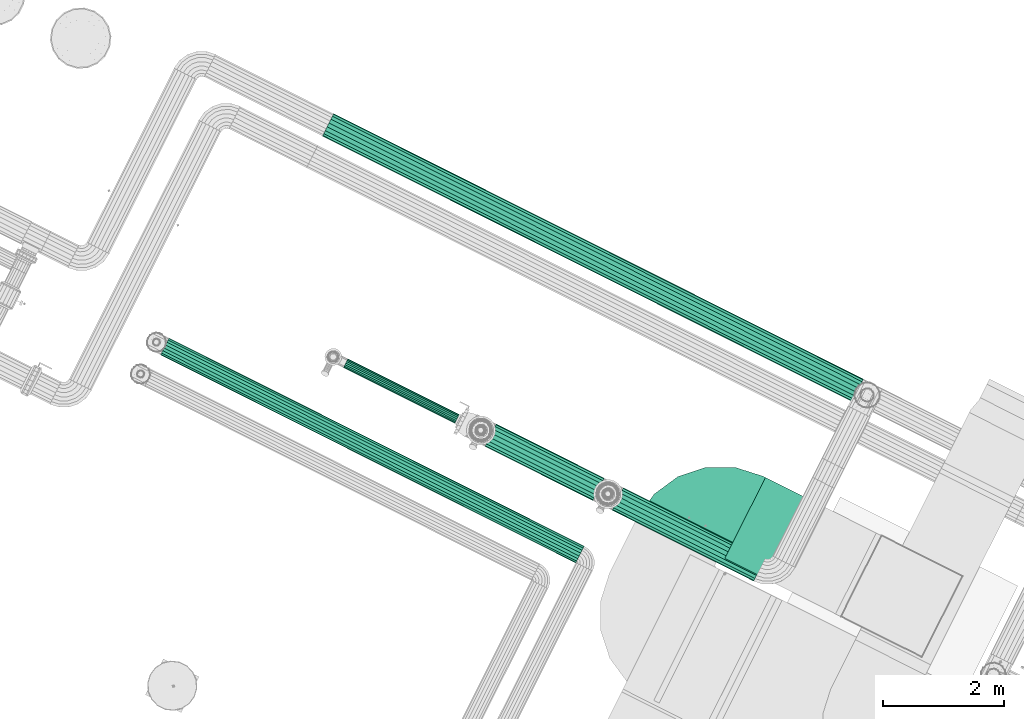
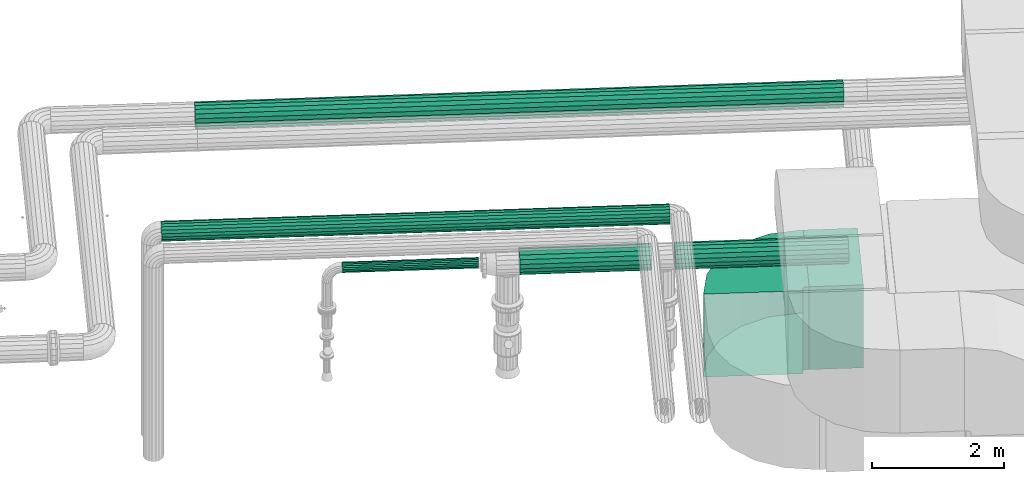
# One storey, part 8 of 152: 6 flow segments, 1 flow fitting.
"""IFC2X3 building model written with IfcOpenShell, lengths in metres."""

from ifc_helpers import new_model, si_unit, derived_unit, direction, frame, origin, place, context, subcontext, project, spatial, face_set, surface_model, source, transform, mapped, material, type_object, type_shapes, element, save


model = new_model("IFC2X3")

# Units and contexts
model_context = context("Model", 3, precision=5.2338327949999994e-05, world=origin(), true_north=direction((0.0, 1.0)))
body_context = subcontext(model_context, "Body", "Model", "MODEL_VIEW")
ifc_project = project(units=[si_unit("LENGTHUNIT", "METRE"), si_unit("AREAUNIT", "SQUARE_METRE"), si_unit("VOLUMEUNIT", "CUBIC_METRE"), si_unit("MASSUNIT", "GRAM", prefix="KILO"), si_unit("PLANEANGLEUNIT", "RADIAN"), derived_unit("THERMALTRANSMITTANCEUNIT", [(si_unit("MASSUNIT", "GRAM", prefix="KILO"), 1), (si_unit("THERMODYNAMICTEMPERATUREUNIT", "KELVIN"), -1), (si_unit("TIMEUNIT", "SECOND"), -3)])], contexts=[model_context])

# Site, building, storey
site_placement = place(None, frame((0.0, 0.0, 0.0), z_axis=(0.0, 0.0, 1.0), x_axis=(0.8939966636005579, -0.4480736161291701, 0.0)))
site = spatial("IfcSite", under=ifc_project, at=site_placement, Name="Default", CompositionType="ELEMENT")
building_placement = place(site_placement, origin())
building = spatial("IfcBuilding", under=site, at=building_placement, CompositionType="ELEMENT")
storey_placement = place(building_placement, frame((0.0, 0.0, 2.7499999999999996)))
storey = spatial("IfcBuildingStorey", under=building, at=storey_placement, Name="1. Obergeschoss", CompositionType="ELEMENT", Elevation=2.7499999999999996)

# Flow segments
ifc_material_1 = material(Name="IfcSurfaceStyle #1741")
distribution_element_type_1 = type_object("IfcDistributionElementType", Name="Stahlrohr nach DIN 2448 249765:Stahlrohr nach DIN 2448 249765", material=ifc_material_1)
shared_shape_1 = source(origin(), body_context, "Body", "SurfaceModel", [
    surface_model("IfcFaceBasedSurfaceModel", [(28.367924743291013, 11.740486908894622, 5.635640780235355), (28.367924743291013, 11.747093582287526, 5.673109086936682), (18.550000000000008, 11.747093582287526, 5.673109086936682), (18.550000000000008, 11.740486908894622, 5.635640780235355), (28.367924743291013, 11.76611674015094, 5.706058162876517), (18.550000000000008, 11.76611674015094, 5.706058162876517), (28.367924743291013, 11.795261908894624, 5.730513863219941), (18.550000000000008, 11.795261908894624, 5.730513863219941), (28.367924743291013, 11.83101375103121, 5.743526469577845), (18.550000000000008, 11.83101375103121, 5.743526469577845), (28.367924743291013, 11.869060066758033, 5.743526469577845), (18.550000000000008, 11.869060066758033, 5.743526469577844), (28.367924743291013, 11.904811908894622, 5.730513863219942), (18.550000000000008, 11.904811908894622, 5.730513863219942), (28.367924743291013, 11.93395707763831, 5.706058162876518), (18.550000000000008, 11.933957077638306, 5.706058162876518), (28.367924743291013, 11.952980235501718, 5.673109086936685), (18.550000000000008, 11.952980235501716, 5.673109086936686), (28.367924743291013, 11.959586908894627, 5.635640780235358), (18.550000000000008, 11.959586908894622, 5.6356407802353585), (28.367924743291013, 11.952980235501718, 5.5981724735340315), (18.550000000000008, 11.952980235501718, 5.59817247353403), (28.367924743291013, 11.93395707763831, 5.565223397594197), (18.550000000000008, 11.933957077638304, 5.565223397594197), (28.367924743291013, 11.904811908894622, 5.540767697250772), (18.550000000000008, 11.904811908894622, 5.540767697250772), (28.367924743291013, 11.869060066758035, 5.52775509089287), (18.550000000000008, 11.869060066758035, 5.52775509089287), (28.367924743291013, 11.831013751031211, 5.52775509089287), (18.550000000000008, 11.831013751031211, 5.52775509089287), (28.367924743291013, 11.795261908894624, 5.540767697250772), (18.550000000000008, 11.795261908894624, 5.540767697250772), (28.367924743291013, 11.76611674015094, 5.5652233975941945), (18.550000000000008, 11.76611674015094, 5.5652233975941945), (28.367924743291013, 11.747093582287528, 5.598172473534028), (18.550000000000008, 11.747093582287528, 5.598172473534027), (28.367924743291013, 11.640486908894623, 5.635640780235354), (28.367924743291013, 11.653124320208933, 5.707311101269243), (18.550000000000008, 11.653124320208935, 5.707311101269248), (18.550000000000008, 11.640486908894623, 5.635640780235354), (28.367924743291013, 11.68951229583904, 5.770336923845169), (18.550000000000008, 11.68951229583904, 5.770336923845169), (28.367924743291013, 11.745261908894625, 5.8171164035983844), (18.550000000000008, 11.745261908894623, 5.8171164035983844), (28.367924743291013, 11.813648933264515, 5.842007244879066), (18.550000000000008, 11.813648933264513, 5.842007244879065), (28.367924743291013, 11.886424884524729, 5.842007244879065), (18.550000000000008, 11.886424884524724, 5.842007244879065), (28.367924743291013, 11.954811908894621, 5.817116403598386), (18.550000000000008, 11.95481190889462, 5.817116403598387), (28.367924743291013, 12.010561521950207, 5.770336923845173), (18.550000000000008, 12.010561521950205, 5.770336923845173), (28.367924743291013, 12.04694949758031, 5.707311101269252), (18.550000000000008, 12.046949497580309, 5.707311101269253), (28.367924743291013, 12.059586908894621, 5.635640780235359), (18.550000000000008, 12.059586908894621, 5.635640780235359), (28.367924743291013, 12.04694949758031, 5.563970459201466), (18.550000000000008, 12.04694949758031, 5.563970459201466), (28.367924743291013, 12.010561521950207, 5.500944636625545), (18.550000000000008, 12.010561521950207, 5.500944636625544), (28.367924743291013, 11.954811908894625, 5.454165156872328), (18.550000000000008, 11.954811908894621, 5.45416515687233), (28.367924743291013, 11.88642488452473, 5.429274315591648), (18.550000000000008, 11.886424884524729, 5.42927431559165), (28.367924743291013, 11.813648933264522, 5.429274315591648), (18.550000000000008, 11.81364893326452, 5.42927431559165), (28.367924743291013, 11.745261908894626, 5.454165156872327), (18.550000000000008, 11.745261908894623, 5.4541651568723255), (28.367924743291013, 11.689512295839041, 5.5009446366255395), (18.550000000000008, 11.68951229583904, 5.50094463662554), (28.367924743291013, 11.653124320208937, 5.563970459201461), (18.550000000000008, 11.653124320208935, 5.563970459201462)], [face_set([[[0, 1, 2, 3]], [[1, 4, 5, 2]], [[4, 6, 7, 5]], [[6, 8, 9, 7]], [[8, 10, 11, 9]], [[10, 12, 13, 11]], [[12, 14, 15, 13]], [[14, 16, 17, 15]], [[16, 18, 19, 17]], [[18, 20, 21, 19]], [[20, 22, 23, 21]], [[22, 24, 25, 23]], [[24, 26, 27, 25]], [[26, 28, 29, 27]], [[28, 30, 31, 29]], [[30, 32, 33, 31]], [[32, 34, 35, 33]], [[34, 0, 3, 35]], [[36, 37, 38, 39]], [[37, 40, 41, 38]], [[40, 42, 43, 41]], [[42, 44, 45, 43]], [[44, 46, 47, 45]], [[46, 48, 49, 47]], [[48, 50, 51, 49]], [[50, 52, 53, 51]], [[52, 54, 55, 53]], [[54, 56, 57, 55]], [[56, 58, 59, 57]], [[58, 60, 61, 59]], [[60, 62, 63, 61]], [[62, 64, 65, 63]], [[64, 66, 67, 65]], [[66, 68, 69, 67]], [[68, 70, 71, 69]], [[70, 36, 39, 71]]])]),
])
type_shapes(distribution_element_type_1, [shared_shape_1])
flow_segment_1_placement = place(storey_placement, frame((0.0, 0.0, -2.7499999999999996)))
element("IfcFlowSegment", 1, at=flow_segment_1_placement, inside=storey, type_object=distribution_element_type_1, material=ifc_material_1, Name="Stahlrohr nach DIN 2448", ObjectType="Stahlrohr nach DIN 2448", context=body_context, shape_type="MappedRepresentation", body=[
    mapped(shared_shape_1, transform((0.0, 0.0, 0.0), scale=1.0)),
])
distribution_element_type_2 = type_object("IfcDistributionElementType", Name="Stahlrohr nach DIN 2448 251681:Stahlrohr nach DIN 2448 251681", material=ifc_material_1)
shared_shape_2 = source(origin(), body_context, "Body", "SurfaceModel", [
    surface_model("IfcFaceBasedSurfaceModel", [(17.778232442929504, 7.2987690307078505, 6.670400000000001), (17.778232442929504, 7.3022155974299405, 6.6508535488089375), (25.4723, 7.3022155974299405, 6.6508535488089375), (25.4723, 7.2987690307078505, 6.670399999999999), (17.778232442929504, 7.3121395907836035, 6.633664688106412), (25.4723, 7.312139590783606, 6.633664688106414), (17.778232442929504, 7.32734403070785, 6.620906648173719), (25.4723, 7.327344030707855, 6.620906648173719), (17.778232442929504, 7.345995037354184, 6.614118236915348), (25.4723, 7.345995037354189, 6.614118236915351), (17.778232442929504, 7.365843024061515, 6.614118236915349), (25.4723, 7.36584302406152, 6.614118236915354), (17.778232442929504, 7.384494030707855, 6.620906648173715), (25.4723, 7.384494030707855, 6.62090664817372), (17.778232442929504, 7.399698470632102, 6.63366468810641), (25.4723, 7.399698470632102, 6.633664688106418), (17.778232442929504, 7.4096224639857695, 6.650853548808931), (25.4723, 7.4096224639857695, 6.65085354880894), (17.778232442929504, 7.4130690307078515, 6.670399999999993), (25.4723, 7.413069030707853, 6.6704000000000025), (17.778232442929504, 7.409622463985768, 6.689946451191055), (25.4723, 7.409622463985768, 6.689946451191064), (17.778232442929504, 7.3996984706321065, 6.707135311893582), (25.4723, 7.399698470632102, 6.707135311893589), (17.778232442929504, 7.3844940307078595, 6.719893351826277), (25.4723, 7.3844940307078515, 6.719893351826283), (17.778232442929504, 7.365843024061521, 6.726681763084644), (25.4723, 7.365843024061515, 6.726681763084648), (17.778232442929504, 7.345995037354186, 6.726681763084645), (25.4723, 7.345995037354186, 6.726681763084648), (17.778232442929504, 7.327344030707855, 6.719893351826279), (25.4723, 7.327344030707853, 6.719893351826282), (17.778232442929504, 7.312139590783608, 6.707135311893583), (25.4723, 7.3121395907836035, 6.707135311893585), (17.778232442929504, 7.302215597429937, 6.689946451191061), (25.4723, 7.302215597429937, 6.689946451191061), (17.778232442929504, 7.198769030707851, 6.670400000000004), (17.778232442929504, 7.208246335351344, 6.616651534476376), (25.4723, 7.2082463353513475, 6.616651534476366), (25.4723, 7.1987690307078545, 6.670399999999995), (17.778232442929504, 7.2355351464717, 6.569385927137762), (25.4723, 7.235535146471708, 6.5693859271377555), (17.778232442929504, 7.277344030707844, 6.534304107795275), (25.4723, 7.277344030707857, 6.534304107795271), (17.778232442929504, 7.328630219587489, 6.515637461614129), (25.4723, 7.328630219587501, 6.51563746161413), (17.778232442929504, 7.383207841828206, 6.5156374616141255), (25.4723, 7.3832078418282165, 6.515637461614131), (17.778232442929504, 7.434494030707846, 6.534304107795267), (25.4723, 7.434494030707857, 6.534304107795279), (17.778232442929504, 7.476302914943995, 6.569385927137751), (25.4723, 7.476302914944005, 6.569385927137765), (17.778232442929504, 7.503591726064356, 6.616651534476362), (25.4723, 7.5035917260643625, 6.616651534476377), (17.778232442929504, 7.513069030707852, 6.67039999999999), (25.4723, 7.513069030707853, 6.670400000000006), (17.778232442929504, 7.5035917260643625, 6.724148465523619), (25.4723, 7.503591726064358, 6.724148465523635), (17.778232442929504, 7.476302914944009, 6.771414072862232), (25.4723, 7.476302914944, 6.771414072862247), (17.778232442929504, 7.434494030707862, 6.806495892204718), (25.4723, 7.4344940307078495, 6.80649589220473), (17.778232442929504, 7.383207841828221, 6.825162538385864), (25.4723, 7.383207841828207, 6.825162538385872), (17.778232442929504, 7.328630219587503, 6.82516253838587), (25.4723, 7.328630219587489, 6.825162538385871), (17.778232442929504, 7.277344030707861, 6.806495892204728), (25.4723, 7.277344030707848, 6.8064958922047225), (17.778232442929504, 7.235535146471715, 6.7714140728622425), (25.4723, 7.235535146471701, 6.771414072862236), (17.778232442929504, 7.208246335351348, 6.724148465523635), (25.4723, 7.208246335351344, 6.724148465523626)], [face_set([[[0, 1, 2, 3]], [[1, 4, 5, 2]], [[4, 6, 7, 5]], [[6, 8, 9, 7]], [[8, 10, 11, 9]], [[10, 12, 13, 11]], [[12, 14, 15, 13]], [[14, 16, 17, 15]], [[16, 18, 19, 17]], [[18, 20, 21, 19]], [[20, 22, 23, 21]], [[22, 24, 25, 23]], [[24, 26, 27, 25]], [[26, 28, 29, 27]], [[28, 30, 31, 29]], [[30, 32, 33, 31]], [[32, 34, 35, 33]], [[34, 0, 3, 35]], [[36, 37, 38, 39]], [[37, 40, 41, 38]], [[40, 42, 43, 41]], [[42, 44, 45, 43]], [[44, 46, 47, 45]], [[46, 48, 49, 47]], [[48, 50, 51, 49]], [[50, 52, 53, 51]], [[52, 54, 55, 53]], [[54, 56, 57, 55]], [[56, 58, 59, 57]], [[58, 60, 61, 59]], [[60, 62, 63, 61]], [[62, 64, 65, 63]], [[64, 66, 67, 65]], [[66, 68, 69, 67]], [[68, 70, 71, 69]], [[70, 36, 39, 71]]])]),
])
type_shapes(distribution_element_type_2, [shared_shape_2])
flow_segment_2_placement = place(storey_placement, frame((0.0, 0.0, -2.7499999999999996)))
element("IfcFlowSegment", 2, at=flow_segment_2_placement, inside=storey, type_object=distribution_element_type_2, material=ifc_material_1, Name="Stahlrohr nach DIN 2448", ObjectType="Stahlrohr nach DIN 2448", context=body_context, shape_type="MappedRepresentation", body=[
    mapped(shared_shape_2, transform((0.0, 0.0, 0.0), scale=1.0)),
])

# Flow fitting
ifc_material_2 = material(Name="IfcSurfaceStyle #271571")
distribution_element_type_3 = type_object("IfcDistributionElementType", Name="Bogen symmetrisch:Bogen symmetrisch", material=ifc_material_2)
shared_shape_3 = source(origin(), body_context, "Body", "SurfaceModel", [
    surface_model("IfcFaceBasedSurfaceModel", [(27.596999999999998, 9.873869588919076, 2.997), (27.118023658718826, 9.79800718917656, 2.997), (27.118023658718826, 9.79800718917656, 4.526999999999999), (27.596999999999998, 9.873869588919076, 4.526999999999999), (26.68593285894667, 9.577845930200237, 2.997), (26.68593285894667, 9.577845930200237, 4.526999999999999), (26.343023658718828, 9.234936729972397, 2.997), (26.343023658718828, 9.234936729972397, 4.526999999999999), (26.122862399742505, 8.802845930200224, 2.997), (26.122862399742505, 8.802845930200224, 4.526999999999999), (26.047, 8.323869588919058, 2.997), (26.047, 8.323869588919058, 4.526999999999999), (27.647, 9.873869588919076, 4.526999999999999), (27.647, 9.873869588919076, 2.997), (27.647, 8.373869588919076, 4.526999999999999), (27.596999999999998, 8.373869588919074, 4.526999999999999), (27.596999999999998, 8.373869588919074, 2.997), (27.647, 8.373869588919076, 2.997), (27.546999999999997, 8.323869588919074, 2.997), (27.549447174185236, 8.339320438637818, 2.997), (27.549447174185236, 8.339320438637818, 4.526999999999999), (27.546999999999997, 8.323869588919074, 4.526999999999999), (27.55654915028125, 8.3532588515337, 2.997), (27.55654915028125, 8.3532588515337, 4.526999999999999), (27.567610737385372, 8.364320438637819, 2.997), (27.567610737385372, 8.364320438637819, 4.526999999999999), (27.581549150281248, 8.371422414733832, 2.997), (27.581549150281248, 8.371422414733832, 4.526999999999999), (27.546999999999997, 8.273869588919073, 4.526999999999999), (27.546999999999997, 8.273869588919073, 2.997), (26.047000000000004, 8.273869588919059, 4.526999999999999), (26.047000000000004, 8.273869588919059, 2.997)], [face_set([[[0, 1, 2, 3]], [[1, 4, 5, 2]], [[4, 6, 7, 5]], [[6, 8, 9, 7]], [[8, 10, 11, 9]], [[3, 12, 13, 0]], [[14, 15, 16, 17]], [[18, 19, 20, 21]], [[19, 22, 23, 20]], [[22, 24, 25, 23]], [[24, 26, 27, 25]], [[26, 16, 15, 27]], [[21, 28, 29, 18]], [[30, 11, 10, 31]], [[1, 0, 26]], [[1, 26, 24]], [[1, 24, 22]], [[1, 22, 19]], [[1, 19, 18]], [[1, 18, 31]], [[1, 31, 4]], [[16, 26, 0]], [[16, 0, 13]], [[16, 13, 17]], [[31, 10, 8]], [[31, 8, 6]], [[31, 6, 4]], [[31, 18, 29]], [[27, 3, 2]], [[25, 27, 2]], [[23, 25, 2]], [[20, 23, 2]], [[21, 20, 2]], [[30, 21, 2]], [[5, 30, 2]], [[3, 27, 15]], [[12, 3, 15]], [[14, 12, 15]], [[9, 11, 30]], [[7, 9, 30]], [[5, 7, 30]], [[28, 21, 30]]])]),
])
type_shapes(distribution_element_type_3, [shared_shape_3])
flow_fitting_placement = place(storey_placement, frame((0.0, 0.0, -2.7499999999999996)))
element("IfcFlowFitting", 3, at=flow_fitting_placement, inside=storey, type_object=distribution_element_type_3, material=ifc_material_2, Name="Bogen symmetrisch", ObjectType="Bogen symmetrisch", context=body_context, shape_type="MappedRepresentation", body=[
    mapped(shared_shape_3, transform((0.0, 0.0, 0.0), scale=1.0)),
])

# Flow segments
distribution_element_type_4 = type_object("IfcDistributionElementType", Name="Luftleitungsteil 274337:Luftleitungsteil 274337", material=ifc_material_2)
shared_shape_4 = source(origin(), body_context, "Body", "SurfaceModel", [
    surface_model("IfcFaceBasedSurfaceModel", [(28.468211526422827, 9.87386958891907, 4.526999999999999), (27.646999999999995, 9.87386958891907, 4.526999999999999), (27.646999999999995, 8.373869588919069, 4.526999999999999), (28.468211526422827, 8.373869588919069, 4.526999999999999), (27.646999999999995, 8.373869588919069, 2.9969999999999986), (28.468211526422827, 8.373869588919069, 2.997), (27.646999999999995, 9.87386958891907, 2.997), (28.468211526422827, 9.87386958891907, 2.9970000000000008)], [face_set([[[0, 1, 2, 3]], [[3, 2, 4, 5]], [[5, 4, 6, 7]], [[7, 6, 1, 0]]])]),
])
type_shapes(distribution_element_type_4, [shared_shape_4])
flow_segment_3_placement = place(storey_placement, frame((0.0, 0.0, -2.7499999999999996)))
element("IfcFlowSegment", 4, at=flow_segment_3_placement, inside=storey, type_object=distribution_element_type_4, material=ifc_material_2, Name="Luftleitungsteil", ObjectType="Luftleitungsteil", context=body_context, shape_type="MappedRepresentation", body=[
    mapped(shared_shape_4, transform((0.0, 0.0, 0.0), scale=1.0)),
])
distribution_element_type_5 = type_object("IfcDistributionElementType", Name="Stahlrohr nach DIN 2448 614697:Stahlrohr nach DIN 2448 614697", material=ifc_material_1)
shared_shape_5 = source(origin(), body_context, "Body", "SurfaceModel", [
    surface_model("IfcFaceBasedSurfaceModel", [(23.262853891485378, 8.350165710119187, 5.1229972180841), (23.262853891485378, 8.356772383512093, 5.085528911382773), (25.261855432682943, 8.356772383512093, 5.085528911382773), (25.261855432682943, 8.350165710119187, 5.1229972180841), (23.262853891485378, 8.375795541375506, 5.052579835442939), (25.261855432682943, 8.375795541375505, 5.052579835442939), (23.262853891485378, 8.40494071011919, 5.028124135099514), (25.261855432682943, 8.404940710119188, 5.028124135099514), (23.262853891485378, 8.440692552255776, 5.015111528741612), (25.261855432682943, 8.440692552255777, 5.0151115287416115), (23.262853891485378, 8.4787388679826, 5.015111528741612), (25.261855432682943, 8.478738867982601, 5.015111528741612), (23.262853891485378, 8.51449071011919, 5.0281241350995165), (25.261855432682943, 8.514490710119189, 5.028124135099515), (23.262853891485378, 8.543635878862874, 5.05257983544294), (25.261855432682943, 8.543635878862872, 5.0525798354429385), (23.262853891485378, 8.562659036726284, 5.085528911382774), (25.261855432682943, 8.562659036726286, 5.085528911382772), (23.262853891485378, 8.56926571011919, 5.122997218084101), (25.261855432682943, 8.56926571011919, 5.1229972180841), (23.262853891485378, 8.562659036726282, 5.160465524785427), (25.261855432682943, 8.562659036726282, 5.160465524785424), (23.262853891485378, 8.543635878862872, 5.19341460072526), (25.261855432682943, 8.543635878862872, 5.19341460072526), (23.262853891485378, 8.51449071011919, 5.217870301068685), (25.261855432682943, 8.51449071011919, 5.217870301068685), (23.262853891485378, 8.4787388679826, 5.2308829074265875), (25.261855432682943, 8.478738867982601, 5.230882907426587), (23.262853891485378, 8.440692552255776, 5.230882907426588), (25.261855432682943, 8.440692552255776, 5.230882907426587), (23.262853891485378, 8.404940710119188, 5.217870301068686), (25.261855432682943, 8.404940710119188, 5.217870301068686), (23.262853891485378, 8.375795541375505, 5.19341460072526), (25.261855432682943, 8.375795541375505, 5.19341460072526), (23.262853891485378, 8.356772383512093, 5.160465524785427), (25.261855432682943, 8.356772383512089, 5.160465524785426), (23.262853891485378, 8.250165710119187, 5.1229972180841), (23.262853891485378, 8.262803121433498, 5.051326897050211), (25.261855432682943, 8.262803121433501, 5.051326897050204), (25.261855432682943, 8.25016571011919, 5.1229972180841), (23.262853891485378, 8.299191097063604, 4.988301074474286), (25.261855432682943, 8.299191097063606, 4.988301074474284), (23.262853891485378, 8.35494071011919, 4.941521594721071), (25.261855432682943, 8.35494071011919, 4.941521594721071), (23.262853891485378, 8.423327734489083, 4.91663075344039), (25.261855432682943, 8.423327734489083, 4.91663075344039), (23.262853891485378, 8.496103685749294, 4.916630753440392), (25.261855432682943, 8.496103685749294, 4.9166307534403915), (23.262853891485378, 8.56449071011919, 4.9415215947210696), (25.261855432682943, 8.56449071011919, 4.9415215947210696), (23.262853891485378, 8.620240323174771, 4.988301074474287), (25.261855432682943, 8.620240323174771, 4.988301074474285), (23.262853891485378, 8.656628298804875, 5.051326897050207), (25.261855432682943, 8.656628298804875, 5.051326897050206), (23.262853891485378, 8.669265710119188, 5.122997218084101), (25.261855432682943, 8.669265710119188, 5.1229972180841), (23.262853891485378, 8.656628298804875, 5.194667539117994), (25.261855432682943, 8.656628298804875, 5.194667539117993), (23.262853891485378, 8.620240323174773, 5.2576933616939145), (25.261855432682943, 8.620240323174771, 5.257693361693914), (23.262853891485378, 8.564490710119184, 5.3044728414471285), (25.261855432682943, 8.564490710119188, 5.304472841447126), (23.262853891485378, 8.496103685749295, 5.329363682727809), (25.261855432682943, 8.496103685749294, 5.3293636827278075), (23.262853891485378, 8.423327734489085, 5.329363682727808), (25.261855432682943, 8.423327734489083, 5.3293636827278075), (23.262853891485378, 8.35494071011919, 5.30447284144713), (25.261855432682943, 8.354940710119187, 5.3044728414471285), (23.262853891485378, 8.299191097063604, 5.257693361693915), (25.261855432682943, 8.299191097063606, 5.257693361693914), (23.262853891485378, 8.262803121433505, 5.194667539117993), (25.261855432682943, 8.262803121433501, 5.194667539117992)], [face_set([[[0, 1, 2, 3]], [[1, 4, 5, 2]], [[4, 6, 7, 5]], [[6, 8, 9, 7]], [[8, 10, 11, 9]], [[10, 12, 13, 11]], [[12, 14, 15, 13]], [[14, 16, 17, 15]], [[16, 18, 19, 17]], [[18, 20, 21, 19]], [[20, 22, 23, 21]], [[22, 24, 25, 23]], [[24, 26, 27, 25]], [[26, 28, 29, 27]], [[28, 30, 31, 29]], [[30, 32, 33, 31]], [[32, 34, 35, 33]], [[34, 0, 3, 35]], [[36, 37, 38, 39]], [[37, 40, 41, 38]], [[40, 42, 43, 41]], [[42, 44, 45, 43]], [[44, 46, 47, 45]], [[46, 48, 49, 47]], [[48, 50, 51, 49]], [[50, 52, 53, 51]], [[52, 54, 55, 53]], [[54, 56, 57, 55]], [[56, 58, 59, 57]], [[58, 60, 61, 59]], [[60, 62, 63, 61]], [[62, 64, 65, 63]], [[64, 66, 67, 65]], [[66, 68, 69, 67]], [[68, 70, 71, 69]], [[70, 36, 39, 71]]])]),
])
type_shapes(distribution_element_type_5, [shared_shape_5])
flow_segment_4_placement = place(storey_placement, frame((0.0, 0.0, -2.7499999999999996)))
element("IfcFlowSegment", 5, at=flow_segment_4_placement, inside=storey, type_object=distribution_element_type_5, material=ifc_material_1, Name="Stahlrohr nach DIN 2448", ObjectType="Stahlrohr nach DIN 2448", context=body_context, shape_type="MappedRepresentation", body=[
    mapped(shared_shape_5, transform((0.0, 0.0, 0.0), scale=1.0)),
])
distribution_element_type_6 = type_object("IfcDistributionElementType", Name="Stahlrohr nach DIN 2448 614743:Stahlrohr nach DIN 2448 614743", material=ifc_material_1)
shared_shape_6 = source(origin(), body_context, "Body", "SurfaceModel", [
    surface_model("IfcFaceBasedSurfaceModel", [(25.617855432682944, 8.569265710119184, 5.122997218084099), (25.617855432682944, 8.562659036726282, 5.160465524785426), (28.24092474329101, 8.562659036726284, 5.160465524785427), (28.24092474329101, 8.569265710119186, 5.1229972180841), (25.617855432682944, 8.54363587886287, 5.193414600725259), (28.24092474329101, 8.543635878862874, 5.19341460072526), (25.617855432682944, 8.51449071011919, 5.217870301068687), (28.24092474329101, 8.51449071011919, 5.217870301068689), (25.617855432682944, 8.478738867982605, 5.230882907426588), (28.24092474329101, 8.478738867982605, 5.230882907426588), (25.617855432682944, 8.440692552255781, 5.230882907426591), (28.24092474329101, 8.440692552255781, 5.230882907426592), (25.617855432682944, 8.40494071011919, 5.217870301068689), (28.24092474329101, 8.404940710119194, 5.217870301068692), (25.617855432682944, 8.375795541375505, 5.193414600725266), (28.24092474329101, 8.375795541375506, 5.193414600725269), (25.617855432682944, 8.356772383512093, 5.160465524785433), (28.24092474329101, 8.356772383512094, 5.160465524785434), (25.617855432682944, 8.350165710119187, 5.122997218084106), (28.24092474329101, 8.350165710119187, 5.122997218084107), (25.617855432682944, 8.35677238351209, 5.085528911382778), (28.24092474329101, 8.35677238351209, 5.085528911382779), (25.617855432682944, 8.375795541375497, 5.052579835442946), (28.24092474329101, 8.3757955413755, 5.0525798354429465), (25.617855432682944, 8.404940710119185, 5.028124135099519), (28.24092474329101, 8.404940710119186, 5.028124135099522), (25.617855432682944, 8.440692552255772, 5.015111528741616), (28.24092474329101, 8.440692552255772, 5.015111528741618), (25.617855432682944, 8.478738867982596, 5.015111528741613), (28.24092474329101, 8.478738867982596, 5.015111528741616), (25.617855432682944, 8.514490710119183, 5.028124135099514), (28.24092474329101, 8.514490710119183, 5.028124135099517), (25.617855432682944, 8.543635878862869, 5.052579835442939), (28.24092474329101, 8.543635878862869, 5.052579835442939), (25.617855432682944, 8.56265903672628, 5.085528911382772), (28.24092474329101, 8.56265903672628, 5.085528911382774), (25.617855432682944, 8.669265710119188, 5.1229972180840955), (25.617855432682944, 8.656628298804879, 5.194667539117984), (28.24092474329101, 8.656628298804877, 5.194667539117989), (28.24092474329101, 8.669265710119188, 5.122997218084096), (25.617855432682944, 8.620240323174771, 5.25769336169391), (28.24092474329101, 8.620240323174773, 5.257693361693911), (25.617855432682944, 8.56449071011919, 5.3044728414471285), (28.24092474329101, 8.564490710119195, 5.3044728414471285), (25.617855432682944, 8.4961036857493, 5.329363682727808), (28.24092474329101, 8.4961036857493, 5.329363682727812), (25.617855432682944, 8.423327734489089, 5.329363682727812), (28.24092474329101, 8.42332773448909, 5.329363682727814), (25.617855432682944, 8.354940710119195, 5.304472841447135), (28.24092474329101, 8.354940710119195, 5.3044728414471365), (25.617855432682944, 8.29919109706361, 5.2576933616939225), (28.24092474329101, 8.299191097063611, 5.257693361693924), (25.617855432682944, 8.262803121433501, 5.194667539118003), (28.24092474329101, 8.262803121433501, 5.194667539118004), (25.617855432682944, 8.25016571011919, 5.122997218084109), (28.24092474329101, 8.250165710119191, 5.1229972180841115), (25.617855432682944, 8.262803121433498, 5.051326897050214), (28.24092474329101, 8.262803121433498, 5.051326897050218), (25.617855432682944, 8.299191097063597, 4.988301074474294), (28.24092474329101, 8.299191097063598, 4.988301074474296), (25.617855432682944, 8.354940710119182, 4.941521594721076), (28.24092474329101, 8.354940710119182, 4.94152159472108), (25.617855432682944, 8.423327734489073, 4.916630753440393), (28.24092474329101, 8.423327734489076, 4.916630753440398), (25.617855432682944, 8.496103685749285, 4.916630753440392), (28.24092474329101, 8.496103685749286, 4.916630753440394), (25.617855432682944, 8.56449071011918, 4.941521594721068), (28.24092474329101, 8.56449071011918, 4.94152159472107), (25.617855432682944, 8.620240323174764, 4.988301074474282), (28.24092474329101, 8.620240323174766, 4.988301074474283), (25.617855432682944, 8.65662829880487, 5.051326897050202), (28.24092474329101, 8.656628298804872, 5.051326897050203)], [face_set([[[0, 1, 2, 3]], [[1, 4, 5, 2]], [[4, 6, 7, 5]], [[6, 8, 9, 7]], [[8, 10, 11, 9]], [[10, 12, 13, 11]], [[12, 14, 15, 13]], [[14, 16, 17, 15]], [[16, 18, 19, 17]], [[18, 20, 21, 19]], [[20, 22, 23, 21]], [[22, 24, 25, 23]], [[24, 26, 27, 25]], [[26, 28, 29, 27]], [[28, 30, 31, 29]], [[30, 32, 33, 31]], [[32, 34, 35, 33]], [[34, 0, 3, 35]], [[36, 37, 38, 39]], [[37, 40, 41, 38]], [[40, 42, 43, 41]], [[42, 44, 45, 43]], [[44, 46, 47, 45]], [[46, 48, 49, 47]], [[48, 50, 51, 49]], [[50, 52, 53, 51]], [[52, 54, 55, 53]], [[54, 56, 57, 55]], [[56, 58, 59, 57]], [[58, 60, 61, 59]], [[60, 62, 63, 61]], [[62, 64, 65, 63]], [[64, 66, 67, 65]], [[66, 68, 69, 67]], [[68, 70, 71, 69]], [[70, 36, 39, 71]]])]),
])
type_shapes(distribution_element_type_6, [shared_shape_6])
flow_segment_5_placement = place(storey_placement, frame((0.0, 0.0, -2.7499999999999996)))
element("IfcFlowSegment", 6, at=flow_segment_5_placement, inside=storey, type_object=distribution_element_type_6, material=ifc_material_1, Name="Stahlrohr nach DIN 2448", ObjectType="Stahlrohr nach DIN 2448", context=body_context, shape_type="MappedRepresentation", body=[
    mapped(shared_shape_6, transform((0.0, 0.0, 0.0), scale=1.0)),
])
distribution_element_type_7 = type_object("IfcDistributionElementType", Name="Stahlrohr nach DIN 2448 623365:Stahlrohr nach DIN 2448 623365", material=ifc_material_1)
shared_shape_7 = source(origin(), body_context, "Body", "SurfaceModel", [
    surface_model("IfcFaceBasedSurfaceModel", [(22.64385389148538, 8.451283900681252, 5.207147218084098), (22.64385389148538, 8.48006489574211, 5.202072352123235), (20.57998007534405, 8.48006489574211, 5.202072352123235), (20.57998007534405, 8.451283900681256, 5.2071472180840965), (22.64385389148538, 8.505374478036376, 5.187459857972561), (20.57998007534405, 8.505374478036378, 5.18745985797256), (22.64385389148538, 8.524159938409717, 5.165072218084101), (20.57998007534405, 8.524159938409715, 5.165072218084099), (22.64385389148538, 8.534155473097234, 5.137609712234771), (20.57998007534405, 8.534155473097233, 5.137609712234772), (22.64385389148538, 8.534155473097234, 5.108384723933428), (20.57998007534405, 8.534155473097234, 5.108384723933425), (22.64385389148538, 8.524159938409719, 5.080922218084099), (20.57998007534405, 8.524159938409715, 5.0809222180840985), (22.64385389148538, 8.50537447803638, 5.058534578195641), (20.57998007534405, 8.505374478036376, 5.058534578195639), (22.64385389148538, 8.480064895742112, 5.043922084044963), (20.57998007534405, 8.480064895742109, 5.043922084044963), (22.64385389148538, 8.451283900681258, 5.038847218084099), (20.579980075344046, 8.451283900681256, 5.0388472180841), (22.64385389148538, 8.422502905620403, 5.043922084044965), (20.579980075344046, 8.4225029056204, 5.043922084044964), (22.64385389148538, 8.397193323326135, 5.058534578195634), (20.57998007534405, 8.397193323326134, 5.058534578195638), (22.64385389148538, 8.378407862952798, 5.080922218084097), (20.57998007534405, 8.378407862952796, 5.080922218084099), (22.64385389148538, 8.36841232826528, 5.108384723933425), (20.57998007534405, 8.36841232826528, 5.108384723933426), (22.64385389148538, 8.36841232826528, 5.1376097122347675), (20.57998007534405, 8.36841232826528, 5.137609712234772), (22.64385389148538, 8.378407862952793, 5.165072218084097), (20.57998007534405, 8.378407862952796, 5.165072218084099), (22.64385389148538, 8.397193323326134, 5.18745985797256), (20.57998007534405, 8.397193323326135, 5.187459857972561), (22.64385389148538, 8.4225029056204, 5.202072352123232), (20.57998007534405, 8.4225029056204, 5.202072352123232)], [face_set([[[0, 1, 2, 3]], [[1, 4, 5, 2]], [[4, 6, 7, 5]], [[6, 8, 9, 7]], [[8, 10, 11, 9]], [[10, 12, 13, 11]], [[12, 14, 15, 13]], [[14, 16, 17, 15]], [[16, 18, 19, 17]], [[18, 20, 21, 19]], [[20, 22, 23, 21]], [[22, 24, 25, 23]], [[24, 26, 27, 25]], [[26, 28, 29, 27]], [[28, 30, 31, 29]], [[30, 32, 33, 31]], [[32, 34, 35, 33]], [[34, 0, 3, 35]]])]),
])
type_shapes(distribution_element_type_7, [shared_shape_7])
flow_segment_6_placement = place(storey_placement, frame((0.0, 0.0, -2.7499999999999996)))
element("IfcFlowSegment", 7, at=flow_segment_6_placement, inside=storey, type_object=distribution_element_type_7, material=ifc_material_1, Name="Stahlrohr nach DIN 2448", ObjectType="Stahlrohr nach DIN 2448", context=body_context, shape_type="MappedRepresentation", body=[
    mapped(shared_shape_7, transform((0.0, 0.0, 0.0), scale=1.0)),
])

save(model, "model.ifc")
